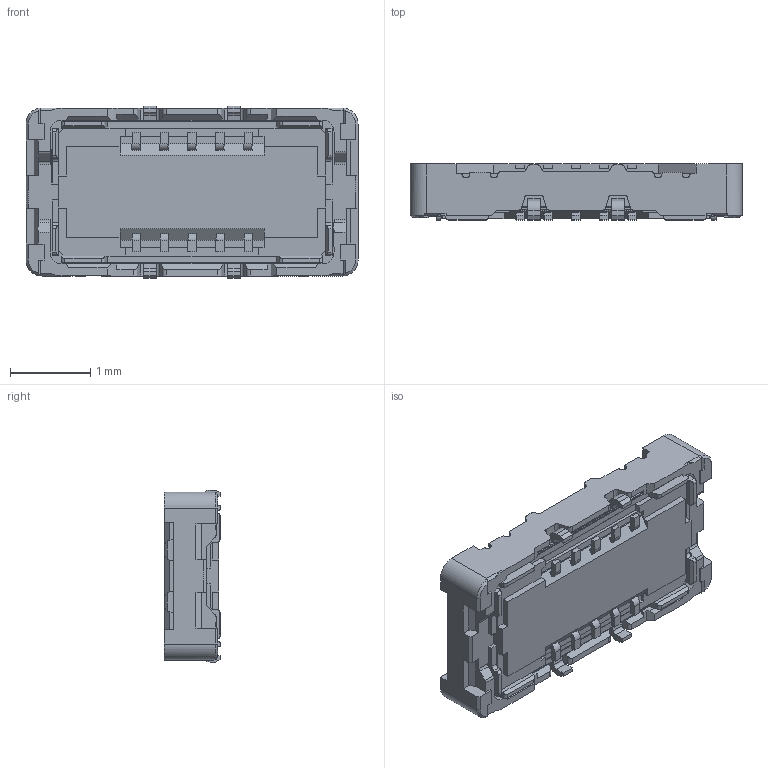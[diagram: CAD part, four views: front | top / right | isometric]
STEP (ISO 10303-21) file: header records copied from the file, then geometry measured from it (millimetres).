
FILE_DESCRIPTION (( 'STEP AP203' ), '1' );
FILE_NAME ('20864-010E-02C 20865-010E-02C NOVASTACK 35-HDN MATING.STEP', '2019-12-17T05:05:14', ( '' ), ( '' ), 'SwSTEP 2.0', 'SolidWorks 2017', '' );
FILE_SCHEMA (( 'CONFIG_CONTROL_DESIGN' ));
Length unit declared in the file: millimetre
Products named in the file (1): 20864-010E-02C 20865-010E-02C  NOVASTACK 35-HDN MATING
Bounding box: 4.15 x 0.7 x 2.15 mm (x, y, z)
Volume: 5 mm3; surface area: 30.6 mm2
Topology: 1 solids, 1 shells, 613 faces, 1728 edges, 1132 vertices
Faces by surface type: plane 469, cylinder 136, cone 8
Entity records: 19647 total; most frequent: CARTESIAN_POINT 3642, ORIENTED_EDGE 3456, DIRECTION 3156, EDGE_CURVE 1728, LINE 1416, VECTOR 1416, VERTEX_POINT 1132, AXIS2_PLACEMENT_3D 870
